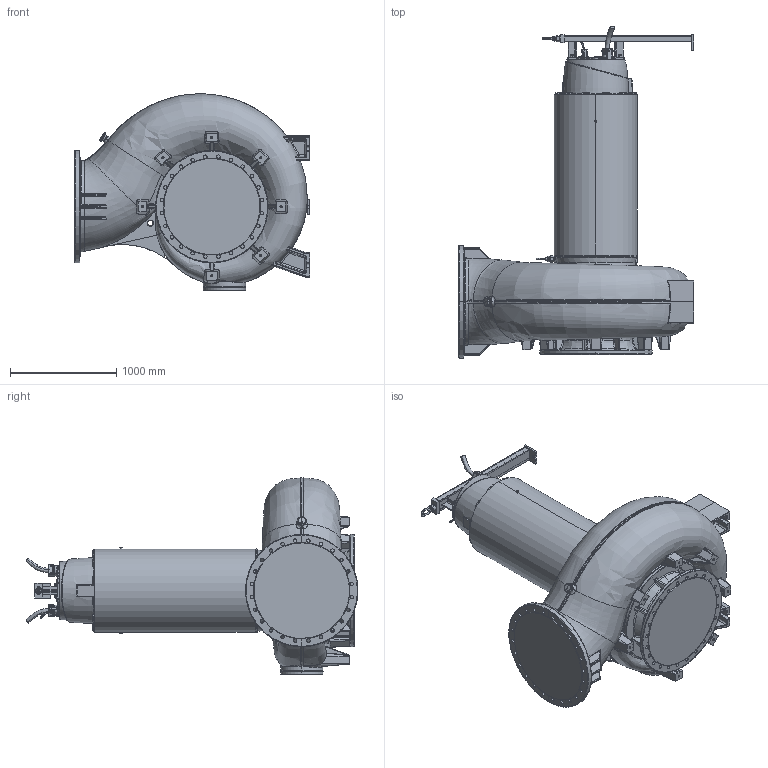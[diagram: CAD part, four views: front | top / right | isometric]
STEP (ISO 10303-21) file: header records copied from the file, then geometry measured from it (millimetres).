
FILE_DESCRIPTION (( 'STEP AP214' ), '1' );
FILE_NAME ('PE7_XFP800X-MX5_DRY HA_D.STEP', '2020-11-24T05:20:12', ( '' ), ( '' ), 'SwSTEP 2.0', 'SolidWorks 2017', '' );
FILE_SCHEMA (( 'AUTOMOTIVE_DESIGN' ));
Length unit declared in the file: inch
Products named in the file (1): PE7_XFP800X-MX5_DRY HA_D
Bounding box: 2225 x 3131.16 x 1851.99 mm (x, y, z)
Volume: 2688535019 mm3; surface area: 19794798.6 mm2
Topology: 18 solids, 38 shells, 4059 faces, 10077 edges, 6157 vertices
Faces by surface type: bspline 1528, plane 1255, cylinder 958, cone 310, torus 8
Entity records: 308240 total; most frequent: CARTESIAN_POINT 223085, ORIENTED_EDGE 20006, DIRECTION 14330, EDGE_CURVE 10003, VERTEX_POINT 6157, AXIS2_PLACEMENT_3D 5321, EDGE_LOOP 4404, FACE_OUTER_BOUND 4059
